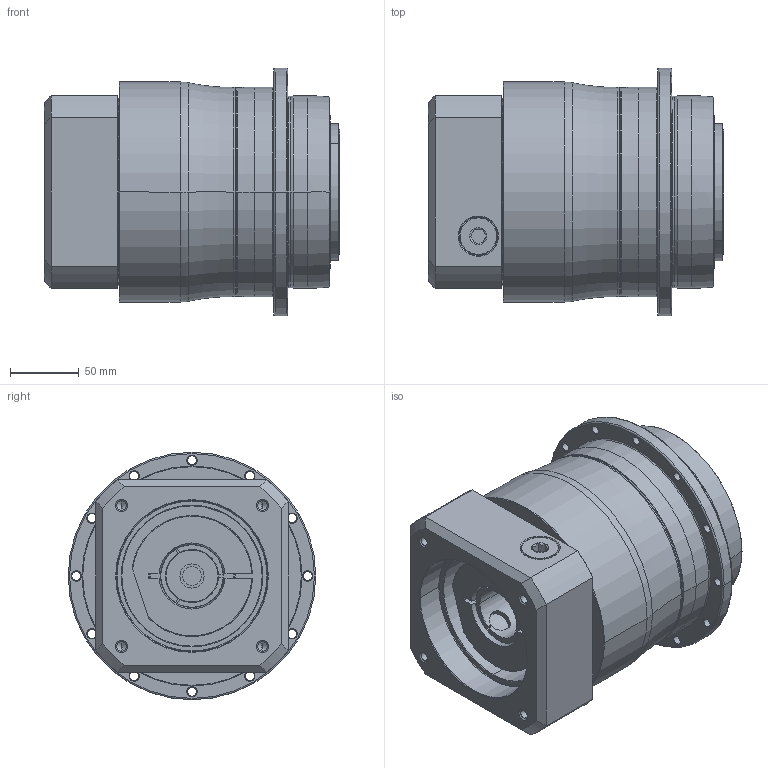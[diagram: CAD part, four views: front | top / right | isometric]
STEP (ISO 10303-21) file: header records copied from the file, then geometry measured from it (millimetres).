
FILE_DESCRIPTION((''),'2;1');
FILE_NAME('AH140_2ST_38-P0409900101_ASM','2016-08-08T',('d01943'),(''),'PRO/ENGINEER BY PARAMETRIC TECHNOLOGY CORPORATION, 2008410','PRO/ENGINEER BY PARAMETRIC TECHNOLOGY CORPORATION, 2008410','');
FILE_SCHEMA(('CONFIG_CONTROL_DESIGN'));
Length unit declared in the file: millimetre
Products named in the file (8): P0278500003; P0359500002; P1317500501; P0409900101; P0503900012; P0912405001; 21711422019; AH140_2ST_38-P0409900101_ASM
Assembly tree (7 placements, depth 2):
  AH140_2ST_38-P0409900101_ASM
    P0278500003
    P0359500002
    P1317500501
    P0409900101
    P0503900012
    P0912405001
    21711422019
Bounding box: 215 x 180 x 180 mm (x, y, z)
Volume: 3277500 mm3; surface area: 357609 mm2
Topology: 8 solids, 8 shells, 541 faces, 1229 edges, 723 vertices
Faces by surface type: cylinder 206, cone 168, plane 97, torus 56, bspline 14
Entity records: 19670 total; most frequent: CARTESIAN_POINT 7280, DIRECTION 2787, ORIENTED_EDGE 2366, EDGE_CURVE 1183, AXIS2_PLACEMENT_3D 1171, VERTEX_POINT 723, EDGE_LOOP 644, CIRCLE 629
